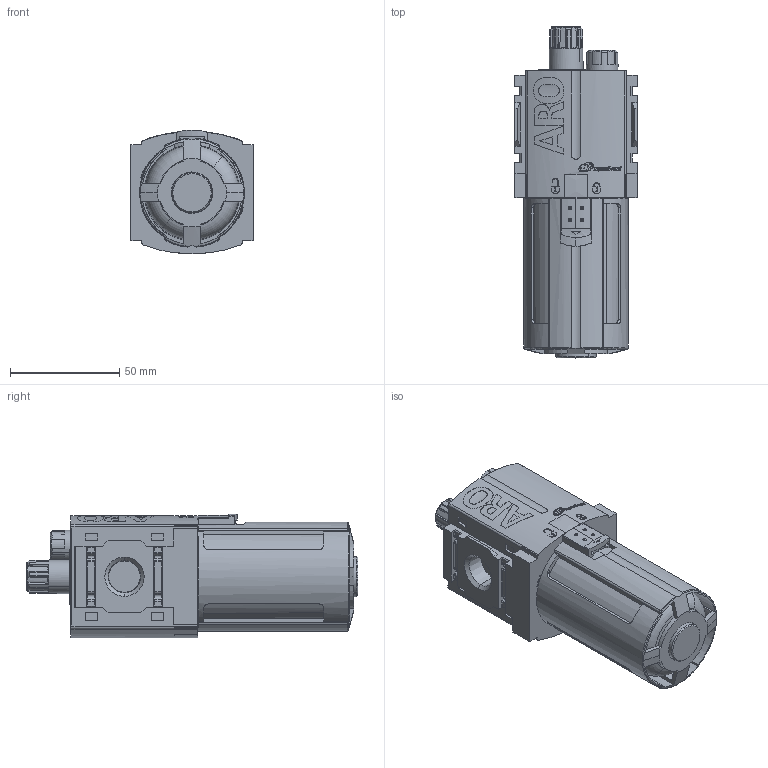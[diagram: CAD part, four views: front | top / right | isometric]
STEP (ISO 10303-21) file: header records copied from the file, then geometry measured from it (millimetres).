
FILE_DESCRIPTION(/* description */ (''),/* implementation_level */ '2;1');
FILE_NAME(/* name */ 'L362X1-X0X_01',/* time_stamp */ '2009-02-04T07:27:27-05:00',/* author */ (''),/* organization */ (''),/* preprocessor_version */ 'ST-DEVELOPER v9',/* originating_system */ 'UGS - NX 4.0',/* authorisation */ '');
FILE_SCHEMA (('AUTOMOTIVE_DESIGN { 1 0 10303 214 1 1 1 1 }'));
Length unit declared in the file: inch
Products named in the file (1): szee0781jirj
Bounding box: 56 x 152.1 x 56.65 mm (x, y, z)
Volume: 274874.2 mm3; surface area: 51539.3 mm2
Topology: 1 solids, 1 shells, 1650 faces, 4451 edges, 2907 vertices
Faces by surface type: plane 945, cylinder 384, extrusion 137, bspline 64, torus 63, cone 29, sphere 24, revolution 4
Entity records: 74601 total; most frequent: CARTESIAN_POINT 25567, ORIENTED_EDGE 8904, DIRECTION 5893, EDGE_CURVE 4452, VERTEX_POINT 2911, VECTOR 2429, LINE 2292, B_SPLINE_CURVE_WITH_KNOTS 1936
